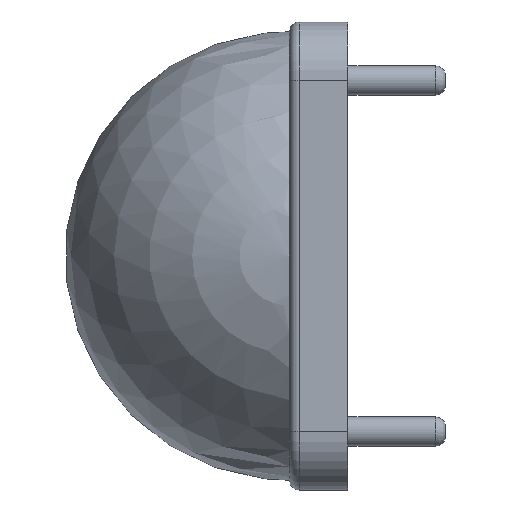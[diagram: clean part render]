
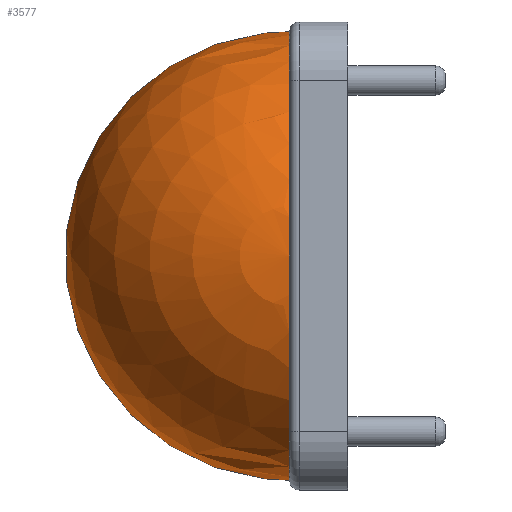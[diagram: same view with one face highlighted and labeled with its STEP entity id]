
A CAD part, left-side view. The second image highlights one B-rep face of the part: STEP entity #3577.
In plain terms, the highlighted spherical face has radius 11.5 mm.
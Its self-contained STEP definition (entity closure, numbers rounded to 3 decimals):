
#23=SPHERICAL_SURFACE('',#3814,11.5);
#225=FACE_OUTER_BOUND('',#427,.T.);
#427=EDGE_LOOP('',(#2550,#2551,#2552,#2553));
#1573=CIRCLE('',#3815,11.5);
#1574=CIRCLE('',#3816,11.5);
#1575=CIRCLE('',#3817,11.5);
#1576=CIRCLE('',#3818,11.5);
#1644=VERTEX_POINT('',#5234);
#1645=VERTEX_POINT('',#5235);
#1646=VERTEX_POINT('',#5237);
#1647=VERTEX_POINT('',#5239);
#1996=EDGE_CURVE('',#1644,#1645,#1573,.T.);
#1997=EDGE_CURVE('',#1646,#1644,#1574,.T.);
#1998=EDGE_CURVE('',#1647,#1646,#1575,.T.);
#1999=EDGE_CURVE('',#1645,#1647,#1576,.T.);
#2550=ORIENTED_EDGE('',*,*,#1996,.F.);
#2551=ORIENTED_EDGE('',*,*,#1997,.F.);
#2552=ORIENTED_EDGE('',*,*,#1998,.F.);
#2553=ORIENTED_EDGE('',*,*,#1999,.F.);
#3577=ADVANCED_FACE('',(#225),#23,.T.);
#3814=AXIS2_PLACEMENT_3D('',#5233,#4135,#4136);
#3815=AXIS2_PLACEMENT_3D('',#5236,#4137,#4138);
#3816=AXIS2_PLACEMENT_3D('',#5238,#4139,#4140);
#3817=AXIS2_PLACEMENT_3D('',#5240,#4141,#4142);
#3818=AXIS2_PLACEMENT_3D('',#5241,#4143,#4144);
#4135=DIRECTION('center_axis',(1.,0.,0.));
#4136=DIRECTION('ref_axis',(0.,0.,-1.));
#4137=DIRECTION('center_axis',(0.,-1.,0.));
#4138=DIRECTION('ref_axis',(0.,0.,-1.));
#4139=DIRECTION('center_axis',(0.,-1.,0.));
#4140=DIRECTION('ref_axis',(0.,0.,-1.));
#4141=DIRECTION('center_axis',(0.,-1.,0.));
#4142=DIRECTION('ref_axis',(0.,0.,-1.));
#4143=DIRECTION('center_axis',(0.,-1.,0.));
#4144=DIRECTION('ref_axis',(0.,0.,-1.));
#5233=CARTESIAN_POINT('Origin',(0.,2.,0.));
#5234=CARTESIAN_POINT('',(11.5,2.,0.));
#5235=CARTESIAN_POINT('',(0.,2.,11.5));
#5236=CARTESIAN_POINT('Origin',(0.,2.,0.));
#5237=CARTESIAN_POINT('',(0.,2.,-11.5));
#5238=CARTESIAN_POINT('Origin',(0.,2.,0.));
#5239=CARTESIAN_POINT('',(-11.5,2.,0.));
#5240=CARTESIAN_POINT('Origin',(0.,2.,0.));
#5241=CARTESIAN_POINT('Origin',(0.,2.,0.));
